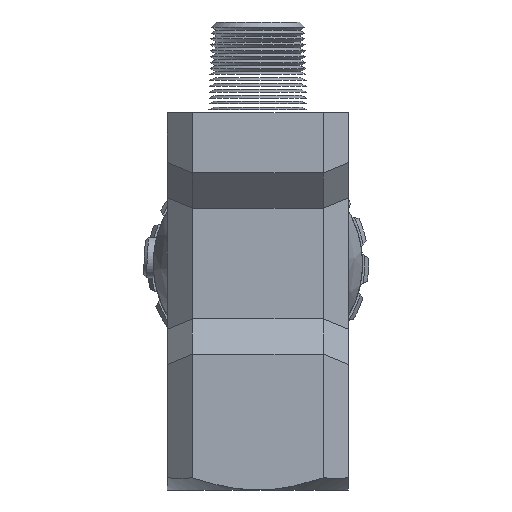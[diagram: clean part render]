
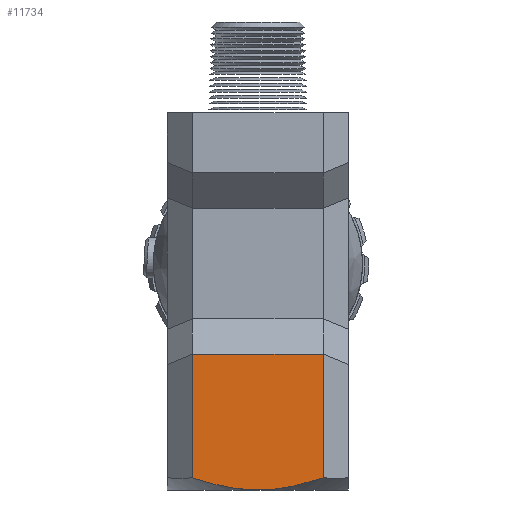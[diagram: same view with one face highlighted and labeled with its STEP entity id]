
A CAD part, front view. The second image highlights one B-rep face of the part: STEP entity #11734.
In plain terms, the highlighted planar face has unit normal (0, -1, 0).
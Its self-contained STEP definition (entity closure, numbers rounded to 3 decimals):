
#89 = AXIS2_PLACEMENT_3D ( 'NONE', #26469, #13953, #1356 ) ;
#1072 = CARTESIAN_POINT ( 'NONE',  ( -9., -9., -9. ) ) ;
#1113 = VECTOR ( 'NONE', #5836, 1000. ) ;
#1356 = DIRECTION ( 'NONE',  ( 0., 0., 1. ) ) ;
#2250 = CARTESIAN_POINT ( 'NONE',  ( -4.376, -9., -21.948 ) ) ;
#3461 = ORIENTED_EDGE ( 'NONE', *, *, #14155, .F. ) ;
#4087 = VERTEX_POINT ( 'NONE', #4191 ) ;
#4191 = CARTESIAN_POINT ( 'NONE',  ( 0., -9., -22.5 ) ) ;
#4262 = CARTESIAN_POINT ( 'NONE',  ( 6.5, -9., -21.287 ) ) ;
#4383 = CARTESIAN_POINT ( 'NONE',  ( -6.5, -9., -21.287 ) ) ;
#4847 = CARTESIAN_POINT ( 'NONE',  ( -6.5, -9., -21.287 ) ) ;
#4926 = LINE ( 'NONE', #1072, #20976 ) ;
#5422 = PLANE ( 'NONE',  #89 ) ;
#5836 = DIRECTION ( 'NONE',  ( 0., 0., 1. ) ) ;
#7426 = CARTESIAN_POINT ( 'NONE',  ( 6.5, -9., -9. ) ) ;
#8530 = LINE ( 'NONE', #17547, #24591 ) ;
#8542 = CARTESIAN_POINT ( 'NONE',  ( 2.762, -9., -22.269 ) ) ;
#9242 = FACE_OUTER_BOUND ( 'NONE', #27134, .T. ) ;
#10601 = CARTESIAN_POINT ( 'NONE',  ( -1.113, -9., -22.5 ) ) ;
#10641 = CARTESIAN_POINT ( 'NONE',  ( 1.116, -9., -22.47 ) ) ;
#10806 = CARTESIAN_POINT ( 'NONE',  ( -6.5, -9., -9. ) ) ;
#11306 = DIRECTION ( 'NONE',  ( 0., 0., -1. ) ) ;
#11400 = EDGE_CURVE ( 'NONE', #26030, #4087, #14976, .T. ) ;
#11734 = ADVANCED_FACE ( 'NONE', ( #9242 ), #5422, .F. ) ;
#12180 = ORIENTED_EDGE ( 'NONE', *, *, #22726, .T. ) ;
#12440 = EDGE_CURVE ( 'NONE', #26030, #24493, #17872, .T. ) ;
#12777 = CARTESIAN_POINT ( 'NONE',  ( 0., -9., -22.5 ) ) ;
#13953 = DIRECTION ( 'NONE',  ( 0., 1., 0. ) ) ;
#14155 = EDGE_CURVE ( 'NONE', #26013, #24493, #4926, .T. ) ;
#14850 = CARTESIAN_POINT ( 'NONE',  ( -2.209, -9., -22.378 ) ) ;
#14976 = B_SPLINE_CURVE_WITH_KNOTS ( 'NONE', 3,
 ( #4262, #20995, #21078, #8542, #23210, #10641, #25290, #12777 ),
 .UNSPECIFIED., .F., .F.,
 ( 4, 2, 2, 4 ),
 ( 0.029, 0.032, 0.034, 0.036 ),
 .UNSPECIFIED. ) ;
#16877 = CARTESIAN_POINT ( 'NONE',  ( 0., -9., -22.5 ) ) ;
#16972 = CARTESIAN_POINT ( 'NONE',  ( -5.45, -9., -21.641 ) ) ;
#17547 = CARTESIAN_POINT ( 'NONE',  ( -6.5, -9., 24. ) ) ;
#17872 = LINE ( 'NONE', #20572, #1113 ) ;
#17876 = DIRECTION ( 'NONE',  ( 1., 0., 0. ) ) ;
#20572 = CARTESIAN_POINT ( 'NONE',  ( 6.5, -9., 24. ) ) ;
#20744 = ORIENTED_EDGE ( 'NONE', *, *, #12440, .T. ) ;
#20976 = VECTOR ( 'NONE', #17876, 1000. ) ;
#20995 = CARTESIAN_POINT ( 'NONE',  ( 5.447, -9., -21.642 ) ) ;
#21078 = CARTESIAN_POINT ( 'NONE',  ( 4.384, -9., -21.946 ) ) ;
#22726 = EDGE_CURVE ( 'NONE', #26013, #26075, #8530, .T. ) ;
#23210 = CARTESIAN_POINT ( 'NONE',  ( 2.217, -9., -22.354 ) ) ;
#24492 = B_SPLINE_CURVE_WITH_KNOTS ( 'NONE', 3,
 ( #16877, #10601, #14850, #2250, #16972, #4383 ),
 .UNSPECIFIED., .F., .F.,
 ( 4, 2, 4 ),
 ( 0.036, 0.039, 0.042 ),
 .UNSPECIFIED. ) ;
#24493 = VERTEX_POINT ( 'NONE', #7426 ) ;
#24591 = VECTOR ( 'NONE', #11306, 1000. ) ;
#25290 = CARTESIAN_POINT ( 'NONE',  ( 0.557, -9., -22.5 ) ) ;
#25422 = ORIENTED_EDGE ( 'NONE', *, *, #25960, .F. ) ;
#25451 = CARTESIAN_POINT ( 'NONE',  ( 6.5, -9., -21.287 ) ) ;
#25756 = ORIENTED_EDGE ( 'NONE', *, *, #11400, .F. ) ;
#25960 = EDGE_CURVE ( 'NONE', #4087, #26075, #24492, .T. ) ;
#26013 = VERTEX_POINT ( 'NONE', #10806 ) ;
#26030 = VERTEX_POINT ( 'NONE', #25451 ) ;
#26075 = VERTEX_POINT ( 'NONE', #4847 ) ;
#26469 = CARTESIAN_POINT ( 'NONE',  ( -9., -9., 24. ) ) ;
#27134 = EDGE_LOOP ( 'NONE', ( #25756, #20744, #3461, #12180, #25422 ) ) ;
